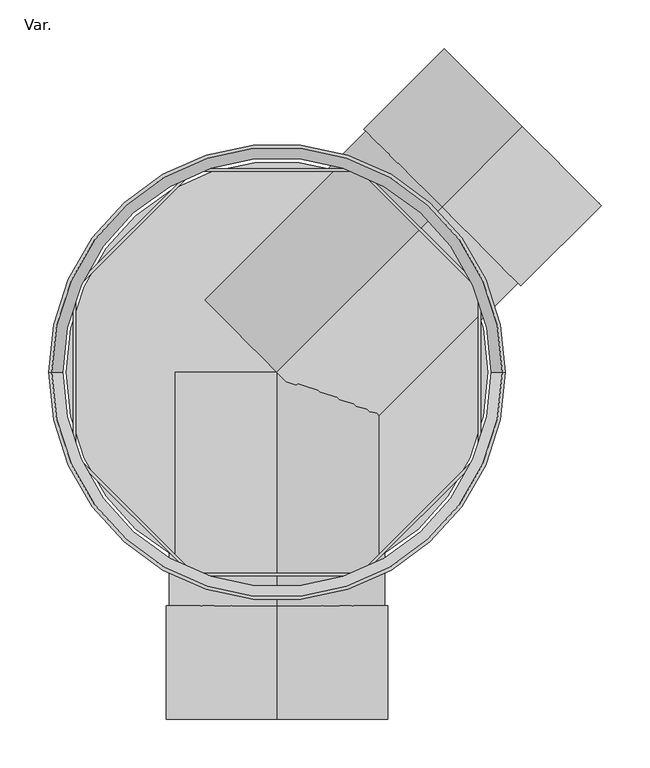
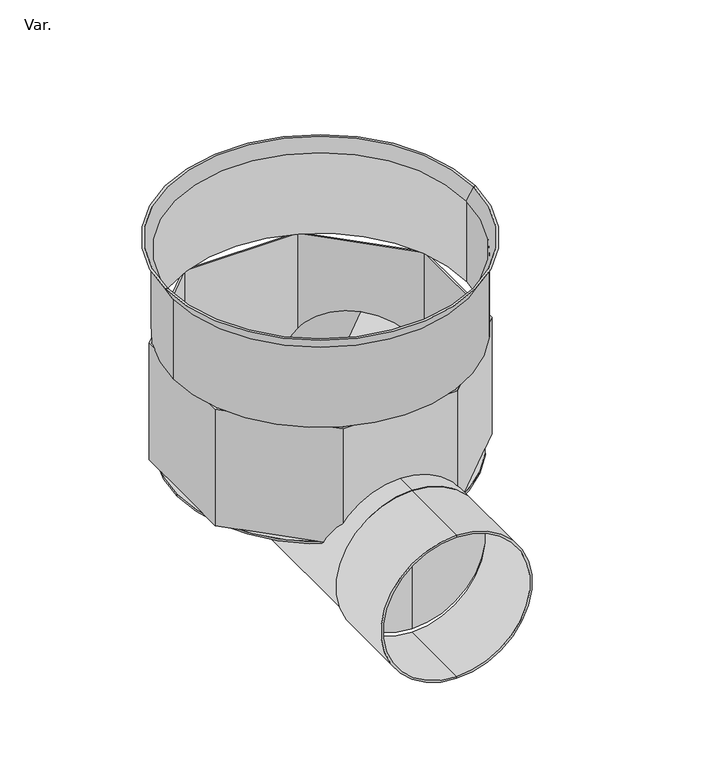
"""IFC4 building model written with IfcOpenShell, lengths in millimetres: pipe fitting geometry, PlastigamaWavin_Unionesdetubería_NovafortCajasAcera220mm : Var.."""

from ifc_helpers import new_model, si_unit, point, frame, origin, origin_with_axes, origin_2d, place, context, project, spatial, polyline, circle_curve, trimmed, segment, composite_curve, outline, extrude, source, transform, mapped, element, save
from ifc_brep_helpers import plane_surface, cylinder_surface, revolved_surface, advanced_brep


def var_65483fa7(model_context):
    return source(origin(), model_context, "Body", "SolidModel", [
        advanced_brep(
        [(-231.6019238, 0.0, 148.8205081), (231.6019238, 0.0, 148.8205081), (235.0660254, 0.0, 148.8205081), (-235.0660254, 0.0, 148.8205081), (-220.7358984, 0.0, 130.0), (220.7358984, 0.0, 130.0), (-224.2, 0.0, 130.0), (224.2, 0.0, 130.0)],
        [
            (0, 1, circle_curve(frame((0.0, 0.0, 148.8205081), z_axis=(0.0, 0.0, -1.0), x_axis=(1.0, 0.0, 0.0)), 231.6019238)),
            (1, 2),
            (2, 3, circle_curve(frame((0.0, 0.0, 148.8205081), z_axis=(0.0, 0.0, 1.0), x_axis=(1.0, 0.0, 0.0)), 235.0660254)),
            (3, 0),
            (1, 0, circle_curve(frame((0.0, 0.0, 148.8205081), z_axis=(0.0, 0.0, -1.0), x_axis=(1.0, 0.0, 0.0)), 231.6019238)),
            (3, 2, circle_curve(frame((0.0, 0.0, 148.8205081), z_axis=(0.0, 0.0, 1.0), x_axis=(1.0, 0.0, 0.0)), 235.0660254)),
            (4, 5, circle_curve(frame((0.0, 0.0, 130.0), z_axis=(0.0, 0.0, -1.0), x_axis=(1.0, 0.0, 0.0)), 220.7358984)),
            (5, 1),
            (0, 4),
            (5, 4, circle_curve(frame((0.0, 0.0, 130.0), z_axis=(0.0, 0.0, -1.0), x_axis=(1.0, 0.0, 0.0)), 220.7358984)),
            (6, 7, circle_curve(frame((0.0, 0.0, 130.0), z_axis=(0.0, 0.0, -1.0), x_axis=(1.0, 0.0, 0.0)), 224.2)),
            (7, 5),
            (4, 6),
            (7, 6, circle_curve(frame((0.0, 0.0, 130.0), z_axis=(0.0, 0.0, -1.0), x_axis=(1.0, 0.0, 0.0)), 224.2)),
            (2, 7),
            (6, 3),
        ],
        [
            plane_surface(frame((0.0, 0.0, 148.8205081), z_axis=(0.0, 0.0, 1.0), x_axis=(1.0, 0.0, 0.0))),
            revolved_surface(polyline([(231.6019238, 0.0, 148.8205081), (220.7358984, 0.0, 130.0)]), (0.0, 0.0, 2214.3150031), (0.0, 0.0, 1.0)),
            plane_surface(frame((0.0, 0.0, 130.0), z_axis=(0.0, 0.0, -1.0), x_axis=(1.0, 0.0, 0.0))),
            revolved_surface(polyline([(224.2, 0.0, 130.0), (235.0660254, 0.0, 148.8205081)]), (0.0, 0.0, 2214.3150031), (0.0, 0.0, 1.0)),
        ],
        [
            (0, [[1, 2, 3, 4]]),
            (0, [[5, -4, 6, -2]]),
            (1, [[7, 8, -1, 9]]),
            (1, [[10, -9, -5, -8]]),
            (2, [[11, 12, -7, 13]]),
            (2, [[14, -13, -10, -12]]),
            (3, [[-3, 15, -11, 16]]),
            (3, [[-6, -16, -14, -15]]),
        ],
    ),
        advanced_brep(
        [(169.8470488, 169.8470488, -337.2), (169.8470488, 169.8470488, -114.2), (252.5785422, 252.5785422, -114.2), (252.5785422, 252.5785422, -337.2), (169.8470488, 169.8470488, -340.2), (169.8470488, 169.8470488, -111.2), (252.5785422, 252.5785422, -340.2), (252.5785422, 252.5785422, -111.2)],
        [
            (0, 1, circle_curve(frame((169.8470488, 169.8470488, -225.7), z_axis=(-0.707106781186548, -0.707106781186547, 0.0), x_axis=(0.0, 0.0, 1.0)), 111.5)),
            (1, 2),
            (2, 3, circle_curve(frame((252.5785422, 252.5785422, -225.7), z_axis=(0.707106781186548, 0.707106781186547, 0.0), x_axis=(0.0, 0.0, 1.0)), 111.5)),
            (3, 0),
            (1, 0, circle_curve(frame((169.8470488, 169.8470488, -225.7), z_axis=(-0.707106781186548, -0.707106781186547, 0.0), x_axis=(0.0, 0.0, 1.0)), 111.5)),
            (3, 2, circle_curve(frame((252.5785422, 252.5785422, -225.7), z_axis=(0.707106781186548, 0.707106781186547, 0.0), x_axis=(0.0, 0.0, 1.0)), 111.5)),
            (4, 5, circle_curve(frame((169.8470488, 169.8470488, -225.7), z_axis=(-0.707106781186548, -0.707106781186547, 0.0), x_axis=(0.0, 0.0, 1.0)), 114.5)),
            (5, 1),
            (0, 4),
            (5, 4, circle_curve(frame((169.8470488, 169.8470488, -225.7), z_axis=(-0.707106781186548, -0.707106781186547, 0.0), x_axis=(0.0, 0.0, 1.0)), 114.5)),
            (6, 7, circle_curve(frame((252.5785422, 252.5785422, -225.7), z_axis=(-0.707106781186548, -0.707106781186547, 0.0), x_axis=(0.0, 0.0, 1.0)), 114.5)),
            (7, 5),
            (4, 6),
            (7, 6, circle_curve(frame((252.5785422, 252.5785422, -225.7), z_axis=(-0.707106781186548, -0.707106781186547, 0.0), x_axis=(0.0, 0.0, 1.0)), 114.5)),
            (2, 7),
            (6, 3),
        ],
        [
            revolved_surface(polyline([(252.57854220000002, 252.57854219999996, -114.19999999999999), (169.84704879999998, 169.84704880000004, -114.19999999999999)]), (191.123649, 191.123649, -225.7), (0.707106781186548, 0.707106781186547, 0.0)),
            plane_surface(frame((169.8470488, 169.8470488, -225.7), z_axis=(-0.7071067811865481, -0.707106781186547, 0.0), x_axis=(0.0, 0.0, 1.0))),
            cylinder_surface(frame((191.123649, 191.123649, -225.7), z_axis=(0.707106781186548, 0.707106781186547, 0.0), x_axis=(0.0, 0.0, 1.0)), 114.5),
            plane_surface(frame((252.5785422, 252.5785422, -225.7), z_axis=(0.7071067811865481, 0.707106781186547, 0.0), x_axis=(0.0, 0.0, 1.0))),
        ],
        [
            (0, [[1, 2, 3, 4]]),
            (0, [[5, -4, 6, -2]]),
            (1, [[7, 8, -1, 9]]),
            (1, [[10, -9, -5, -8]]),
            (2, [[11, 12, -7, 13]]),
            (2, [[14, -13, -10, -12]]),
            (3, [[-3, 15, -11, 16]]),
            (3, [[-6, -16, -14, -15]]),
        ],
    ),
        advanced_brep(
        [(169.8470488, 169.8470488, -220.99), (169.8470488, 169.8470488, -109.99), (169.8470488, 169.8470488, -331.99), (0.0, 0.0, -331.99), (0.0, 0.0, -109.99), (0.0, 0.0, -220.99)],
        [
            (0, 1),
            (1, 2, circle_curve(frame((169.8470488, 169.8470488, -220.99), z_axis=(0.7071067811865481, 0.7071067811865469, 0.0), x_axis=(0.0, 0.0, 1.0)), 111.0)),
            (2, 0),
            (2, 1, circle_curve(frame((169.8470488, 169.8470488, -220.99), z_axis=(0.7071067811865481, 0.7071067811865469, 0.0), x_axis=(0.0, 0.0, 1.0)), 111.0)),
            (3, 4, circle_curve(frame((0.0, 0.0, -220.99), z_axis=(-0.7071067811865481, -0.7071067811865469, 0.0), x_axis=(0.0, 0.0, 1.0)), 111.0)),
            (4, 5),
            (5, 3),
            (4, 3, circle_curve(frame((0.0, 0.0, -220.99), z_axis=(-0.7071067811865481, -0.7071067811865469, 0.0), x_axis=(0.0, 0.0, 1.0)), 111.0)),
            (1, 4),
            (3, 2),
        ],
        [
            plane_surface(frame((169.8470488, 169.8470488, -220.99), z_axis=(0.7071067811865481, 0.707106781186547, 0.0), x_axis=(0.0, 0.0, 1.0))),
            plane_surface(frame((0.0, 0.0, -220.99), z_axis=(-0.7071067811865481, -0.707106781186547, 0.0), x_axis=(0.0, 0.0, 1.0))),
            cylinder_surface(frame((169.8470488, 169.8470488, -220.99), z_axis=(0.7071067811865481, 0.7071067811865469, 0.0), x_axis=(0.0, 0.0, 1.0)), 111.0),
        ],
        [
            (0, [[1, 2, 3]]),
            (0, [[-3, 4, -1]]),
            (1, [[5, 6, 7]]),
            (1, [[8, -7, -6]]),
            (2, [[-2, 9, -5, 10]]),
            (2, [[-4, -10, -8, -9]]),
        ],
    ),
        extrude(outline(composite_curve([segment(trimmed(circle_curve(origin_2d(), 217.0), [point((-217.0, 0.0))], [point((217.0, 0.0))], False, "CARTESIAN"), True, "CONTINUOUS"), segment(trimmed(circle_curve(origin_2d(), 217.0), [point((217.0, 0.0))], [point((-217.0, 0.0))], False, "CARTESIAN"), True, "CONTINUOUS")], self_intersect=False)), frame((0.0, 0.0, -189.41), z_axis=(0.0, 0.0, 1.0), x_axis=(1.0, 0.0, 0.0)), (0.0, 0.0, 1.0), 3.0),
        advanced_brep(
        [(0.0, -357.2, -337.2), (0.0, -357.2, -114.2), (0.0, -357.2, -111.2), (0.0, -357.2, -340.2), (0.0, -240.2, -340.2), (0.0, -240.2, -111.2), (0.0, -240.2, -114.2), (0.0, -240.2, -337.2)],
        [
            (0, 1, circle_curve(frame((0.0, -357.2, -225.7), z_axis=(0.0, 1.0, 0.0), x_axis=(0.0, 0.0, 1.0)), 111.5)),
            (1, 2),
            (2, 3, circle_curve(frame((0.0, -357.2, -225.7), z_axis=(0.0, -1.0, 0.0), x_axis=(0.0, 0.0, 1.0)), 114.5)),
            (3, 0),
            (1, 0, circle_curve(frame((0.0, -357.2, -225.7), z_axis=(0.0, 1.0, 0.0), x_axis=(0.0, 0.0, 1.0)), 111.5)),
            (3, 2, circle_curve(frame((0.0, -357.2, -225.7), z_axis=(0.0, -1.0, 0.0), x_axis=(0.0, 0.0, 1.0)), 114.5)),
            (4, 5, circle_curve(frame((0.0, -240.2, -225.7), z_axis=(0.0, 1.0, 0.0), x_axis=(0.0, 0.0, 1.0)), 114.5)),
            (5, 6),
            (6, 7, circle_curve(frame((0.0, -240.2, -225.7), z_axis=(0.0, -1.0, 0.0), x_axis=(0.0, 0.0, 1.0)), 111.5)),
            (7, 4),
            (5, 4, circle_curve(frame((0.0, -240.2, -225.7), z_axis=(0.0, 1.0, 0.0), x_axis=(0.0, 0.0, 1.0)), 114.5)),
            (7, 6, circle_curve(frame((0.0, -240.2, -225.7), z_axis=(0.0, -1.0, 0.0), x_axis=(0.0, 0.0, 1.0)), 111.5)),
            (2, 5),
            (4, 3),
            (6, 1),
            (0, 7),
        ],
        [
            plane_surface(frame((0.0, -357.2, -225.7), z_axis=(0.0, -1.0, 0.0), x_axis=(0.0, 0.0, 1.0))),
            plane_surface(frame((0.0, -240.2, -225.7), z_axis=(0.0, 1.0, 0.0), x_axis=(0.0, 0.0, 1.0))),
            cylinder_surface(frame((0.0, -249.0327013, -225.7), z_axis=(0.0, -1.0, 0.0), x_axis=(0.0, 0.0, 1.0)), 114.5),
            revolved_surface(polyline([(0.0, -357.2, -114.19999999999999), (0.0, -240.2, -114.19999999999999)]), (0.0, -249.0327013, -225.7), (0.0, -1.0, 0.0)),
        ],
        [
            (0, [[1, 2, 3, 4]]),
            (0, [[5, -4, 6, -2]]),
            (1, [[7, 8, 9, 10]]),
            (1, [[11, -10, 12, -8]]),
            (2, [[-3, 13, -7, 14]]),
            (2, [[-6, -14, -11, -13]]),
            (3, [[-9, 15, -1, 16]]),
            (3, [[-12, -16, -5, -15]]),
        ],
    ),
        advanced_brep(
        [(0.0, -240.2, -220.99), (0.0, -240.2, -109.99), (0.0, -240.2, -331.99), (0.0, 0.0, -331.99), (0.0, 0.0, -109.99), (0.0, 0.0, -220.99)],
        [
            (0, 1),
            (1, 2, circle_curve(frame((0.0, -240.2, -220.99), z_axis=(0.0, -1.0, 0.0), x_axis=(0.0, 0.0, 1.0)), 111.0)),
            (2, 0),
            (2, 1, circle_curve(frame((0.0, -240.2, -220.99), z_axis=(0.0, -1.0, 0.0), x_axis=(0.0, 0.0, 1.0)), 111.0)),
            (3, 4, circle_curve(frame((0.0, 0.0, -220.99), z_axis=(0.0, 1.0, 0.0), x_axis=(0.0, 0.0, 1.0)), 111.0)),
            (4, 5),
            (5, 3),
            (4, 3, circle_curve(frame((0.0, 0.0, -220.99), z_axis=(0.0, 1.0, 0.0), x_axis=(0.0, 0.0, 1.0)), 111.0)),
            (1, 4),
            (3, 2),
        ],
        [
            plane_surface(frame((0.0, -240.2, -220.99), z_axis=(0.0, -1.0, 0.0), x_axis=(0.0, 0.0, 1.0))),
            plane_surface(frame((0.0, 0.0, -220.99), z_axis=(0.0, 1.0, 0.0), x_axis=(0.0, 0.0, 1.0))),
            cylinder_surface(frame((0.0, 0.0, -220.99), z_axis=(0.0, -1.0, 0.0), x_axis=(0.0, 0.0, 1.0)), 111.0),
        ],
        [
            (0, [[1, 2, 3]]),
            (0, [[-3, 4, -1]]),
            (1, [[5, 6, 7]]),
            (1, [[8, -7, -6]]),
            (2, [[-2, 9, -5, 10]]),
            (2, [[-4, -10, -8, -9]]),
        ],
    ),
        extrude(outline(composite_curve([segment(trimmed(circle_curve(origin_2d(), 222.2), [point((-222.2, 0.0))], [point((222.2, 0.0))], False, "CARTESIAN"), True, "CONTINUOUS"), segment(trimmed(circle_curve(origin_2d(), 222.2), [point((222.2, 0.0))], [point((-222.2, 0.0))], False, "CARTESIAN"), True, "CONTINUOUS")], self_intersect=False), holes=[composite_curve([segment(trimmed(circle_curve(origin_2d(), 222.0), [point((-222.0, 0.0))], [point((222.0, 0.0))], True, "CARTESIAN"), True, "CONTINUOUS"), segment(trimmed(circle_curve(origin_2d(), 222.0), [point((222.0, 0.0))], [point((-222.0, 0.0))], True, "CARTESIAN"), True, "CONTINUOUS")], self_intersect=False)]), origin_with_axes(), (0.0, 0.0, 1.0), 130.0),
        extrude(outline(polyline([(-209.44, 86.7528885), (-86.7528885, 209.44), (86.7528885, 209.44), (209.44, 86.7528885), (209.44, -86.7528885), (86.7528885, -209.44), (-86.7528885, -209.44), (-209.44, -86.7528885), (-209.44, 86.7528885)]), holes=[polyline([(206.44, 85.5102478), (85.5102478, 206.44), (-85.5102478, 206.44), (-206.44, 85.5102478), (-206.44, -85.5102478), (-85.5102478, -206.44), (85.5102478, -206.44), (206.44, -85.5102478), (206.44, 85.5102478)])]), frame((0.0, 0.0, -186.41), z_axis=(0.0, 0.0, 1.0), x_axis=(1.0, 0.0, 0.0)), (0.0, 0.0, 1.0), 186.41),
    ])


if __name__ == "__main__":
    model = new_model("IFC4")
    model_context = context("Model", 3, world=origin())
    ifc_project = project(units=[si_unit("LENGTHUNIT", "METRE", prefix="MILLI")], contexts=[model_context])
    site = spatial("IfcSite", under=ifc_project)
    building = spatial("IfcBuilding", under=site)
    placement = place(None, origin())
    var_shape = var_65483fa7(model_context)
    element("IfcPipeFitting", 1, ObjectType="PlastigamaWavin_Unionesdetubería_NovafortCajasAcera220mm : Var.", at=placement, inside=building, context=model_context, shape_type="MappedRepresentation", body=[
        mapped(var_shape, transform((0.0, 0.0, 0.0), x_axis=(1.0, 0.0, 0.0), y_axis=(0.0, 1.0, 0.0), z_axis=(0.0, 0.0, 1.0))),
    ])
    save(model, "model.ifc")
